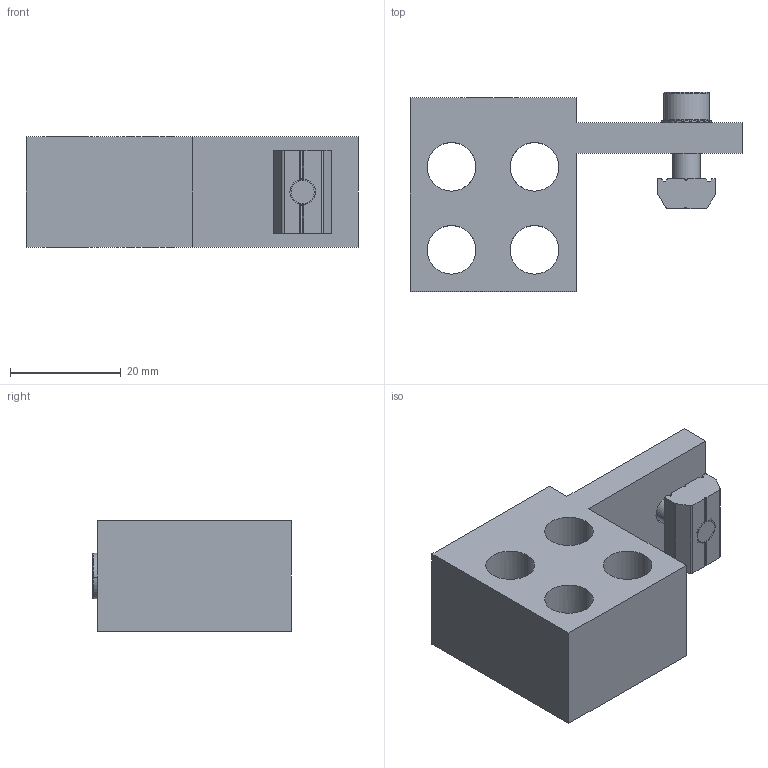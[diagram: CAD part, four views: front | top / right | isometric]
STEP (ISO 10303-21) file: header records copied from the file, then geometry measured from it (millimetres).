
FILE_DESCRIPTION (( 'STEP AP214' ), '1' );
FILE_NAME ('SMB2-9G18T.STEP', '2023-01-06T08:46:15', ( 'Windows User' ), ( 'P R C' ), 'SwSTEP 2.0', 'SolidWorks 2018', '' );
FILE_SCHEMA (( 'AUTOMOTIVE_DESIGN' ));
Length unit declared in the file: millimetre
Products named in the file (5): PTC-M5L16; PTN-M5; SMB2-9G18T; SMB2-9G18; PTS-M5
Assembly tree (4 placements, depth 2):
  SMB2-9G18T
    SMB2-9G18
    PTC-M5L16
    PTS-M5
    PTN-M5
Bounding box: 60 x 35.95 x 20 mm (x, y, z)
Volume: 18753.3 mm3; surface area: 9835.5 mm2
Topology: 4 solids, 4 shells, 257 faces, 763 edges, 505 vertices
Faces by surface type: plane 204, cylinder 45, cone 8
Entity records: 9267 total; most frequent: CARTESIAN_POINT 1858, ORIENTED_EDGE 1522, DIRECTION 1499, EDGE_CURVE 761, AXIS2_PLACEMENT_3D 510, VERTEX_POINT 505, VECTOR 479, LINE 479
